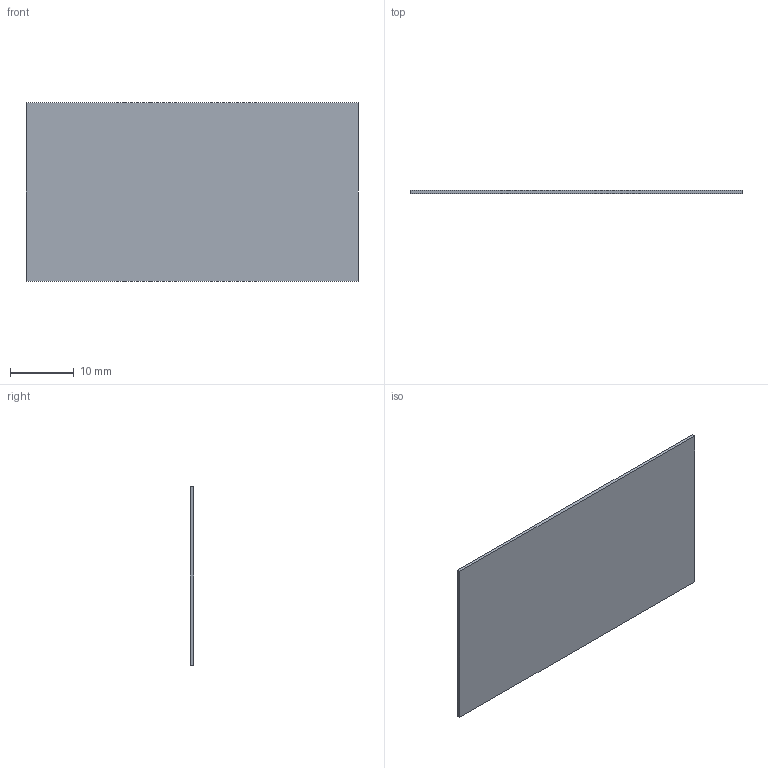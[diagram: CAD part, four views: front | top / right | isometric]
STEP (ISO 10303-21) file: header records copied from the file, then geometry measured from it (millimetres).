
FILE_DESCRIPTION(('Open CASCADE Model'),'2;1');
FILE_NAME('battery_tray_foam_0_8to0_5','2026-09-08T13:43:18',('Author'), ('Open CASCADE'),'Open CASCADE STEP processor 7.8','build123d', 'Unknown');
FILE_SCHEMA(('AUTOMOTIVE_DESIGN { 1 0 10303 214 1 1 1 1 }'));
Length unit declared in the file: millimetre
Products named in the file (3): =>[0:1:1:2]; battery_tray_foam_0_8to0_5; SOLID
Assembly tree (2 placements, depth 3):
  =>[0:1:1:2]
    battery_tray_foam_0_8to0_5
      SOLID
Bounding box: 52 x 0.5 x 28 mm (x, y, z)
Volume: 728 mm3; surface area: 2992 mm2
Topology: 1 solids, 1 shells, 6 faces, 12 edges, 8 vertices
Faces by surface type: plane 6
Entity records: 358 total; most frequent: DIRECTION 54, CARTESIAN_POINT 53, LINE 36, VECTOR 36, ORIENTED_EDGE 24, PCURVE 24, DEFINITIONAL_REPRESENTATION 24, EDGE_CURVE 12
